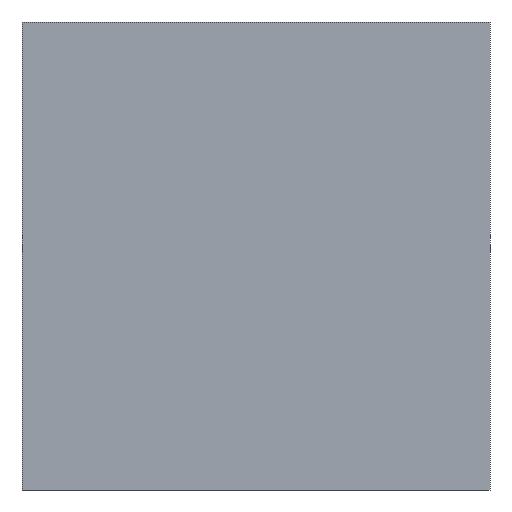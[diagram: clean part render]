
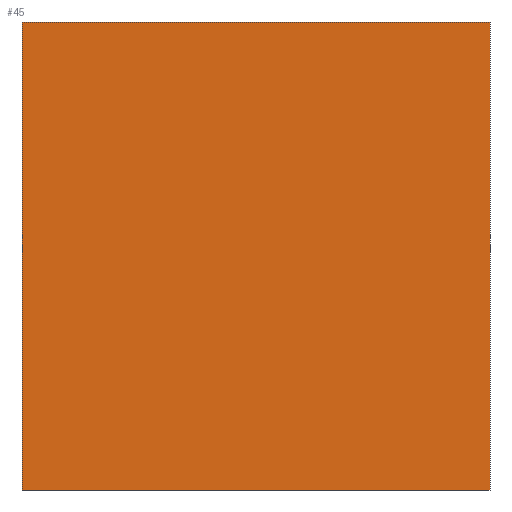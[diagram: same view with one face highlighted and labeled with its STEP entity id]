
A CAD part, left-side view. The second image highlights one B-rep face of the part: STEP entity #45.
In plain terms, the highlighted planar face has unit normal (-1, 0, 0).
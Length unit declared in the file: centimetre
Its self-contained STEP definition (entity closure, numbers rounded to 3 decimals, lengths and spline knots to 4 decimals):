
#6 = CARTESIAN_POINT ( 'NONE',  ( 0., 0., 1000. ) ) ;
#24 = CARTESIAN_POINT ( 'NONE',  ( 0., 1000., 1000. ) ) ;
#28 = EDGE_CURVE ( 'NONE', #420, #440, #344, .T. ) ;
#41 = DIRECTION ( 'NONE',  ( 0., -1., 0. ) ) ;
#42 = DIRECTION ( 'NONE',  ( 0., 0., -1. ) ) ;
#45 = ADVANCED_FACE ( 'NONE', ( #204 ), #377, .F. ) ;
#50 = VECTOR ( 'NONE', #325, 100. ) ;
#54 = EDGE_CURVE ( 'NONE', #292, #420, #311, .T. ) ;
#61 = ORIENTED_EDGE ( 'NONE', *, *, #54, .T. ) ;
#65 = VERTEX_POINT ( 'NONE', #6 ) ;
#81 = VECTOR ( 'NONE', #41, 100. ) ;
#86 = CARTESIAN_POINT ( 'NONE',  ( 0., 0., 1000. ) ) ;
#98 = LINE ( 'NONE', #24, #50 ) ;
#107 = EDGE_LOOP ( 'NONE', ( #143, #244, #108, #61 ) ) ;
#108 = ORIENTED_EDGE ( 'NONE', *, *, #243, .F. ) ;
#143 = ORIENTED_EDGE ( 'NONE', *, *, #28, .T. ) ;
#154 = EDGE_CURVE ( 'NONE', #65, #440, #387, .T. ) ;
#155 = DIRECTION ( 'NONE',  ( 0., 0., -1. ) ) ;
#183 = CARTESIAN_POINT ( 'NONE',  ( 0., 1000., 1000. ) ) ;
#191 = CARTESIAN_POINT ( 'NONE',  ( 0., 1000., 1000. ) ) ;
#204 = FACE_OUTER_BOUND ( 'NONE', #107, .T. ) ;
#211 = CARTESIAN_POINT ( 'NONE',  ( 0., 1000., 0. ) ) ;
#240 = CARTESIAN_POINT ( 'NONE',  ( 0., 1000., 0. ) ) ;
#241 = DIRECTION ( 'NONE',  ( 1., 0., 0. ) ) ;
#243 = EDGE_CURVE ( 'NONE', #292, #65, #98, .T. ) ;
#244 = ORIENTED_EDGE ( 'NONE', *, *, #154, .F. ) ;
#292 = VERTEX_POINT ( 'NONE', #191 ) ;
#311 = LINE ( 'NONE', #183, #354 ) ;
#325 = DIRECTION ( 'NONE',  ( 0., -1., 0. ) ) ;
#327 = CARTESIAN_POINT ( 'NONE',  ( 0., 0., 0. ) ) ;
#340 = DIRECTION ( 'NONE',  ( 0., 0., -1. ) ) ;
#344 = LINE ( 'NONE', #211, #81 ) ;
#349 = CARTESIAN_POINT ( 'NONE',  ( 0., 1000., 1000. ) ) ;
#354 = VECTOR ( 'NONE', #340, 100. ) ;
#377 = PLANE ( 'NONE',  #427 ) ;
#387 = LINE ( 'NONE', #86, #428 ) ;
#420 = VERTEX_POINT ( 'NONE', #240 ) ;
#427 = AXIS2_PLACEMENT_3D ( 'NONE', #349, #241, #42 ) ;
#428 = VECTOR ( 'NONE', #155, 100. ) ;
#440 = VERTEX_POINT ( 'NONE', #327 ) ;
